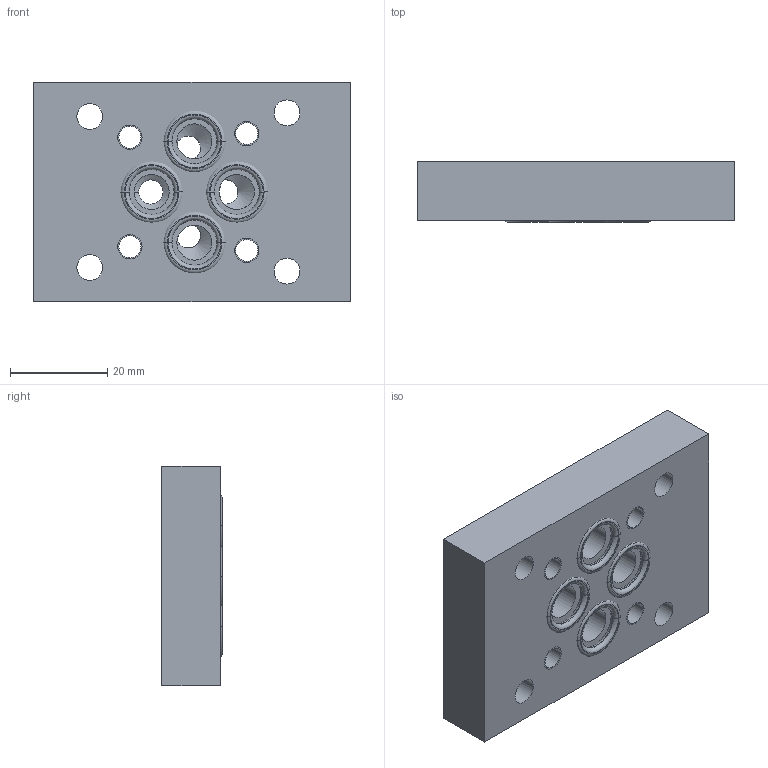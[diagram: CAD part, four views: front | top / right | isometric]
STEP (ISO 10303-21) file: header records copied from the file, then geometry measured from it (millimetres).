
FILE_DESCRIPTION((''),'2;1');
FILE_NAME('41146500_ASM','2018-10-12T',('l.soukupova'),(''),'PRO/ENGINEER BY PARAMETRIC TECHNOLOGY CORPORATION, 2015440','PRO/ENGINEER BY PARAMETRIC TECHNOLOGY CORPORATION, 2015440','');
FILE_SCHEMA(('AUTOMOTIVE_DESIGN { 1 0 10303 214 1 1 1 1 }'));
Length unit declared in the file: millimetre
Products named in the file (3): 23706000; ORAR00012_201524; 41146500_ASM
Assembly tree (5 placements, depth 2):
  41146500_ASM
    23706000
    ORAR00012_201524  x4
Bounding box: 65 x 12.38 x 45 mm (x, y, z)
Volume: 30366.9 mm3; surface area: 12436.7 mm2
Topology: 5 solids, 9 shells, 138 faces, 355 edges, 274 vertices
Faces by surface type: cylinder 72, torus 32, plane 26, cone 8
Entity records: 4614 total; most frequent: CARTESIAN_POINT 847, DIRECTION 622, ORIENTED_EDGE 456, PRESENTATION_STYLE_ASSIGNMENT 291, STYLED_ITEM 291, CURVE_STYLE 271, AXIS2_PLACEMENT_3D 255, EDGE_CURVE 236
